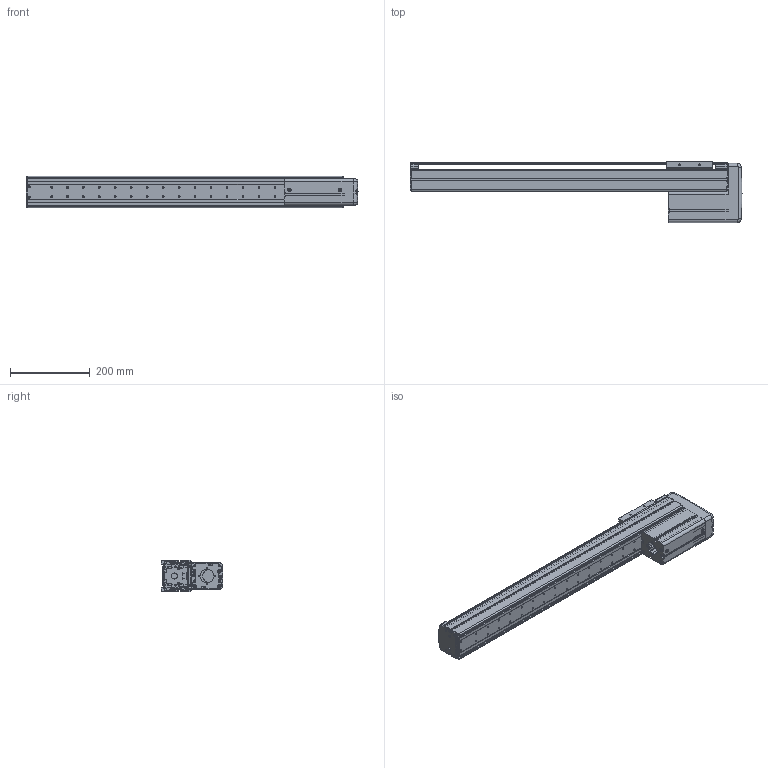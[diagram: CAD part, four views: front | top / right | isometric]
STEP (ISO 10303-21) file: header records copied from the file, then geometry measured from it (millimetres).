
FILE_DESCRIPTION((''),'2;1');
FILE_NAME('BE10E-UU-M_N-60_IGS_PRT','2017-06-17T',(' '),(''),'PRO/ENGINEER BY PARAMETRIC TECHNOLOGY CORPORATION, 2015030','PRO/ENGINEER BY PARAMETRIC TECHNOLOGY CORPORATION, 2015030','');
FILE_SCHEMA(('CONFIG_CONTROL_DESIGN'));
Length unit declared in the file: millimetre
Products named in the file (1): BE10E-UU-M_N-60_IGS_PRT
Bounding box: 832 x 153 x 78 mm (x, y, z)
Volume: 1251370.2 mm3; surface area: 849885.5 mm2
Topology: 2 solids, 113 shells, 1797 faces, 4858 edges, 3150 vertices
Faces by surface type: cylinder 857, plane 712, cone 81, torus 71, sphere 44, bspline 32
Entity records: 58794 total; most frequent: CARTESIAN_POINT 12434, DIRECTION 10054, ORIENTED_EDGE 9222, EDGE_CURVE 4822, AXIS2_PLACEMENT_3D 3746, VERTEX_POINT 3150, VECTOR 2562, LINE 2562
